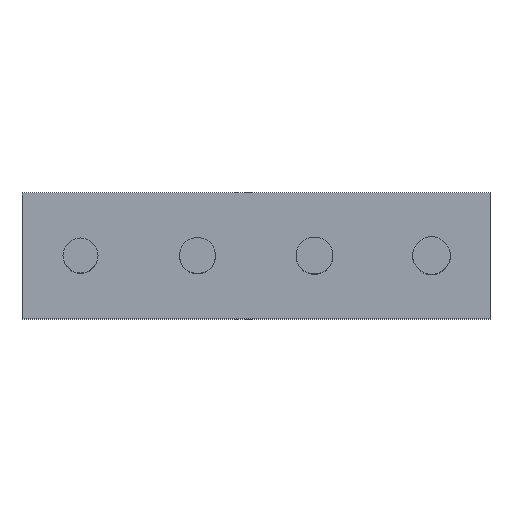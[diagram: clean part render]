
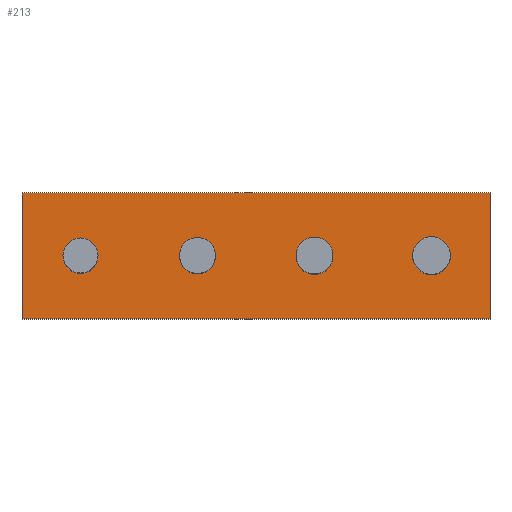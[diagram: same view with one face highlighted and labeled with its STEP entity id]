
A CAD part, top view. The second image highlights one B-rep face of the part: STEP entity #213.
In plain terms, the highlighted planar face has unit normal (0, 0, 1).
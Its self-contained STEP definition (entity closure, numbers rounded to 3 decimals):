
#24 = VERTEX_POINT('',#25);
#25 = CARTESIAN_POINT('',(-26.,-7.,0.));
#32 = PLANE('',#33);
#33 = AXIS2_PLACEMENT_3D('',#34,#35,#36);
#34 = CARTESIAN_POINT('',(-26.,-7.,-1.5));
#35 = DIRECTION('',(1.,0.,-0.));
#36 = DIRECTION('',(0.,0.,1.));
#44 = PLANE('',#45);
#45 = AXIS2_PLACEMENT_3D('',#46,#47,#48);
#46 = CARTESIAN_POINT('',(-26.,-7.,-1.5));
#47 = DIRECTION('',(-0.,1.,0.));
#48 = DIRECTION('',(0.,0.,1.));
#85 = VERTEX_POINT('',#86);
#86 = CARTESIAN_POINT('',(-26.,7.,0.));
#100 = PLANE('',#101);
#101 = AXIS2_PLACEMENT_3D('',#102,#103,#104);
#102 = CARTESIAN_POINT('',(-26.,7.,-1.5));
#103 = DIRECTION('',(-0.,1.,0.));
#104 = DIRECTION('',(0.,0.,1.));
#112 = EDGE_CURVE('',#24,#85,#113,.T.);
#113 = SURFACE_CURVE('',#114,(#118,#125),.PCURVE_S1.);
#114 = LINE('',#115,#116);
#115 = CARTESIAN_POINT('',(-26.,-7.,0.));
#116 = VECTOR('',#117,1.);
#117 = DIRECTION('',(-0.,1.,0.));
#118 = PCURVE('',#32,#119);
#119 = DEFINITIONAL_REPRESENTATION('',(#120),#124);
#120 = LINE('',#121,#122);
#121 = CARTESIAN_POINT('',(1.5,0.));
#122 = VECTOR('',#123,1.);
#123 = DIRECTION('',(0.,-1.));
#124 = ( GEOMETRIC_REPRESENTATION_CONTEXT(2) 
PARAMETRIC_REPRESENTATION_CONTEXT() REPRESENTATION_CONTEXT('2D SPACE',''
  ) );
#125 = PCURVE('',#126,#131);
#126 = PLANE('',#127);
#127 = AXIS2_PLACEMENT_3D('',#128,#129,#130);
#128 = CARTESIAN_POINT('',(-26.,-7.,0.));
#129 = DIRECTION('',(0.,0.,1.));
#130 = DIRECTION('',(1.,0.,-0.));
#131 = DEFINITIONAL_REPRESENTATION('',(#132),#136);
#132 = LINE('',#133,#134);
#133 = CARTESIAN_POINT('',(0.,0.));
#134 = VECTOR('',#135,1.);
#135 = DIRECTION('',(0.,1.));
#136 = ( GEOMETRIC_REPRESENTATION_CONTEXT(2) 
PARAMETRIC_REPRESENTATION_CONTEXT() REPRESENTATION_CONTEXT('2D SPACE',''
  ) );
#165 = EDGE_CURVE('',#24,#166,#168,.T.);
#166 = VERTEX_POINT('',#167);
#167 = CARTESIAN_POINT('',(26.,-7.,0.));
#168 = SURFACE_CURVE('',#169,(#173,#180),.PCURVE_S1.);
#169 = LINE('',#170,#171);
#170 = CARTESIAN_POINT('',(-26.,-7.,0.));
#171 = VECTOR('',#172,1.);
#172 = DIRECTION('',(1.,0.,-0.));
#173 = PCURVE('',#44,#174);
#174 = DEFINITIONAL_REPRESENTATION('',(#175),#179);
#175 = LINE('',#176,#177);
#176 = CARTESIAN_POINT('',(1.5,0.));
#177 = VECTOR('',#178,1.);
#178 = DIRECTION('',(0.,1.));
#179 = ( GEOMETRIC_REPRESENTATION_CONTEXT(2) 
PARAMETRIC_REPRESENTATION_CONTEXT() REPRESENTATION_CONTEXT('2D SPACE',''
  ) );
#180 = PCURVE('',#126,#181);
#181 = DEFINITIONAL_REPRESENTATION('',(#182),#186);
#182 = LINE('',#183,#184);
#183 = CARTESIAN_POINT('',(0.,0.));
#184 = VECTOR('',#185,1.);
#185 = DIRECTION('',(1.,0.));
#186 = ( GEOMETRIC_REPRESENTATION_CONTEXT(2) 
PARAMETRIC_REPRESENTATION_CONTEXT() REPRESENTATION_CONTEXT('2D SPACE',''
  ) );
#202 = PLANE('',#203);
#203 = AXIS2_PLACEMENT_3D('',#204,#205,#206);
#204 = CARTESIAN_POINT('',(26.,-7.,-1.5));
#205 = DIRECTION('',(1.,0.,-0.));
#206 = DIRECTION('',(0.,0.,1.));
#213 = ADVANCED_FACE('',(#214,#262,#293,#324,#355),#126,.T.);
#214 = FACE_BOUND('',#215,.T.);
#215 = EDGE_LOOP('',(#216,#217,#218,#241));
#216 = ORIENTED_EDGE('',*,*,#112,.F.);
#217 = ORIENTED_EDGE('',*,*,#165,.T.);
#218 = ORIENTED_EDGE('',*,*,#219,.T.);
#219 = EDGE_CURVE('',#166,#220,#222,.T.);
#220 = VERTEX_POINT('',#221);
#221 = CARTESIAN_POINT('',(26.,7.,0.));
#222 = SURFACE_CURVE('',#223,(#227,#234),.PCURVE_S1.);
#223 = LINE('',#224,#225);
#224 = CARTESIAN_POINT('',(26.,-7.,0.));
#225 = VECTOR('',#226,1.);
#226 = DIRECTION('',(-0.,1.,0.));
#227 = PCURVE('',#126,#228);
#228 = DEFINITIONAL_REPRESENTATION('',(#229),#233);
#229 = LINE('',#230,#231);
#230 = CARTESIAN_POINT('',(52.,0.));
#231 = VECTOR('',#232,1.);
#232 = DIRECTION('',(0.,1.));
#233 = ( GEOMETRIC_REPRESENTATION_CONTEXT(2) 
PARAMETRIC_REPRESENTATION_CONTEXT() REPRESENTATION_CONTEXT('2D SPACE',''
  ) );
#234 = PCURVE('',#202,#235);
#235 = DEFINITIONAL_REPRESENTATION('',(#236),#240);
#236 = LINE('',#237,#238);
#237 = CARTESIAN_POINT('',(1.5,0.));
#238 = VECTOR('',#239,1.);
#239 = DIRECTION('',(0.,-1.));
#240 = ( GEOMETRIC_REPRESENTATION_CONTEXT(2) 
PARAMETRIC_REPRESENTATION_CONTEXT() REPRESENTATION_CONTEXT('2D SPACE',''
  ) );
#241 = ORIENTED_EDGE('',*,*,#242,.F.);
#242 = EDGE_CURVE('',#85,#220,#243,.T.);
#243 = SURFACE_CURVE('',#244,(#248,#255),.PCURVE_S1.);
#244 = LINE('',#245,#246);
#245 = CARTESIAN_POINT('',(-26.,7.,0.));
#246 = VECTOR('',#247,1.);
#247 = DIRECTION('',(1.,0.,-0.));
#248 = PCURVE('',#126,#249);
#249 = DEFINITIONAL_REPRESENTATION('',(#250),#254);
#250 = LINE('',#251,#252);
#251 = CARTESIAN_POINT('',(0.,14.));
#252 = VECTOR('',#253,1.);
#253 = DIRECTION('',(1.,0.));
#254 = ( GEOMETRIC_REPRESENTATION_CONTEXT(2) 
PARAMETRIC_REPRESENTATION_CONTEXT() REPRESENTATION_CONTEXT('2D SPACE',''
  ) );
#255 = PCURVE('',#100,#256);
#256 = DEFINITIONAL_REPRESENTATION('',(#257),#261);
#257 = LINE('',#258,#259);
#258 = CARTESIAN_POINT('',(1.5,0.));
#259 = VECTOR('',#260,1.);
#260 = DIRECTION('',(0.,1.));
#261 = ( GEOMETRIC_REPRESENTATION_CONTEXT(2) 
PARAMETRIC_REPRESENTATION_CONTEXT() REPRESENTATION_CONTEXT('2D SPACE',''
  ) );
#262 = FACE_BOUND('',#263,.T.);
#263 = EDGE_LOOP('',(#264));
#264 = ORIENTED_EDGE('',*,*,#265,.F.);
#265 = EDGE_CURVE('',#266,#266,#268,.T.);
#266 = VERTEX_POINT('',#267);
#267 = CARTESIAN_POINT('',(-17.55,0.,0.));
#268 = SURFACE_CURVE('',#269,(#274,#281),.PCURVE_S1.);
#269 = CIRCLE('',#270,1.95);
#270 = AXIS2_PLACEMENT_3D('',#271,#272,#273);
#271 = CARTESIAN_POINT('',(-19.5,0.,0.));
#272 = DIRECTION('',(0.,0.,1.));
#273 = DIRECTION('',(1.,0.,-0.));
#274 = PCURVE('',#126,#275);
#275 = DEFINITIONAL_REPRESENTATION('',(#276),#280);
#276 = CIRCLE('',#277,1.95);
#277 = AXIS2_PLACEMENT_2D('',#278,#279);
#278 = CARTESIAN_POINT('',(6.5,7.));
#279 = DIRECTION('',(1.,0.));
#280 = ( GEOMETRIC_REPRESENTATION_CONTEXT(2) 
PARAMETRIC_REPRESENTATION_CONTEXT() REPRESENTATION_CONTEXT('2D SPACE',''
  ) );
#281 = PCURVE('',#282,#287);
#282 = CYLINDRICAL_SURFACE('',#283,1.95);
#283 = AXIS2_PLACEMENT_3D('',#284,#285,#286);
#284 = CARTESIAN_POINT('',(-19.5,0.,0.));
#285 = DIRECTION('',(0.,0.,1.));
#286 = DIRECTION('',(1.,0.,-0.));
#287 = DEFINITIONAL_REPRESENTATION('',(#288),#292);
#288 = LINE('',#289,#290);
#289 = CARTESIAN_POINT('',(0.,0.));
#290 = VECTOR('',#291,1.);
#291 = DIRECTION('',(1.,0.));
#292 = ( GEOMETRIC_REPRESENTATION_CONTEXT(2) 
PARAMETRIC_REPRESENTATION_CONTEXT() REPRESENTATION_CONTEXT('2D SPACE',''
  ) );
#293 = FACE_BOUND('',#294,.T.);
#294 = EDGE_LOOP('',(#295));
#295 = ORIENTED_EDGE('',*,*,#296,.F.);
#296 = EDGE_CURVE('',#297,#297,#299,.T.);
#297 = VERTEX_POINT('',#298);
#298 = CARTESIAN_POINT('',(-4.5,0.,0.));
#299 = SURFACE_CURVE('',#300,(#305,#312),.PCURVE_S1.);
#300 = CIRCLE('',#301,2.);
#301 = AXIS2_PLACEMENT_3D('',#302,#303,#304);
#302 = CARTESIAN_POINT('',(-6.5,0.,0.));
#303 = DIRECTION('',(0.,0.,1.));
#304 = DIRECTION('',(1.,0.,-0.));
#305 = PCURVE('',#126,#306);
#306 = DEFINITIONAL_REPRESENTATION('',(#307),#311);
#307 = CIRCLE('',#308,2.);
#308 = AXIS2_PLACEMENT_2D('',#309,#310);
#309 = CARTESIAN_POINT('',(19.5,7.));
#310 = DIRECTION('',(1.,0.));
#311 = ( GEOMETRIC_REPRESENTATION_CONTEXT(2) 
PARAMETRIC_REPRESENTATION_CONTEXT() REPRESENTATION_CONTEXT('2D SPACE',''
  ) );
#312 = PCURVE('',#313,#318);
#313 = CYLINDRICAL_SURFACE('',#314,2.);
#314 = AXIS2_PLACEMENT_3D('',#315,#316,#317);
#315 = CARTESIAN_POINT('',(-6.5,0.,0.));
#316 = DIRECTION('',(0.,0.,1.));
#317 = DIRECTION('',(1.,0.,-0.));
#318 = DEFINITIONAL_REPRESENTATION('',(#319),#323);
#319 = LINE('',#320,#321);
#320 = CARTESIAN_POINT('',(0.,0.));
#321 = VECTOR('',#322,1.);
#322 = DIRECTION('',(1.,0.));
#323 = ( GEOMETRIC_REPRESENTATION_CONTEXT(2) 
PARAMETRIC_REPRESENTATION_CONTEXT() REPRESENTATION_CONTEXT('2D SPACE',''
  ) );
#324 = FACE_BOUND('',#325,.T.);
#325 = EDGE_LOOP('',(#326));
#326 = ORIENTED_EDGE('',*,*,#327,.F.);
#327 = EDGE_CURVE('',#328,#328,#330,.T.);
#328 = VERTEX_POINT('',#329);
#329 = CARTESIAN_POINT('',(8.55,0.,0.));
#330 = SURFACE_CURVE('',#331,(#336,#343),.PCURVE_S1.);
#331 = CIRCLE('',#332,2.05);
#332 = AXIS2_PLACEMENT_3D('',#333,#334,#335);
#333 = CARTESIAN_POINT('',(6.5,0.,0.));
#334 = DIRECTION('',(0.,0.,1.));
#335 = DIRECTION('',(1.,0.,-0.));
#336 = PCURVE('',#126,#337);
#337 = DEFINITIONAL_REPRESENTATION('',(#338),#342);
#338 = CIRCLE('',#339,2.05);
#339 = AXIS2_PLACEMENT_2D('',#340,#341);
#340 = CARTESIAN_POINT('',(32.5,7.));
#341 = DIRECTION('',(1.,0.));
#342 = ( GEOMETRIC_REPRESENTATION_CONTEXT(2) 
PARAMETRIC_REPRESENTATION_CONTEXT() REPRESENTATION_CONTEXT('2D SPACE',''
  ) );
#343 = PCURVE('',#344,#349);
#344 = CYLINDRICAL_SURFACE('',#345,2.05);
#345 = AXIS2_PLACEMENT_3D('',#346,#347,#348);
#346 = CARTESIAN_POINT('',(6.5,0.,0.));
#347 = DIRECTION('',(0.,0.,1.));
#348 = DIRECTION('',(1.,0.,-0.));
#349 = DEFINITIONAL_REPRESENTATION('',(#350),#354);
#350 = LINE('',#351,#352);
#351 = CARTESIAN_POINT('',(0.,0.));
#352 = VECTOR('',#353,1.);
#353 = DIRECTION('',(1.,0.));
#354 = ( GEOMETRIC_REPRESENTATION_CONTEXT(2) 
PARAMETRIC_REPRESENTATION_CONTEXT() REPRESENTATION_CONTEXT('2D SPACE',''
  ) );
#355 = FACE_BOUND('',#356,.T.);
#356 = EDGE_LOOP('',(#357));
#357 = ORIENTED_EDGE('',*,*,#358,.F.);
#358 = EDGE_CURVE('',#359,#359,#361,.T.);
#359 = VERTEX_POINT('',#360);
#360 = CARTESIAN_POINT('',(21.6,0.,0.));
#361 = SURFACE_CURVE('',#362,(#367,#374),.PCURVE_S1.);
#362 = CIRCLE('',#363,2.1);
#363 = AXIS2_PLACEMENT_3D('',#364,#365,#366);
#364 = CARTESIAN_POINT('',(19.5,0.,0.));
#365 = DIRECTION('',(0.,0.,1.));
#366 = DIRECTION('',(1.,0.,-0.));
#367 = PCURVE('',#126,#368);
#368 = DEFINITIONAL_REPRESENTATION('',(#369),#373);
#369 = CIRCLE('',#370,2.1);
#370 = AXIS2_PLACEMENT_2D('',#371,#372);
#371 = CARTESIAN_POINT('',(45.5,7.));
#372 = DIRECTION('',(1.,0.));
#373 = ( GEOMETRIC_REPRESENTATION_CONTEXT(2) 
PARAMETRIC_REPRESENTATION_CONTEXT() REPRESENTATION_CONTEXT('2D SPACE',''
  ) );
#374 = PCURVE('',#375,#380);
#375 = CYLINDRICAL_SURFACE('',#376,2.1);
#376 = AXIS2_PLACEMENT_3D('',#377,#378,#379);
#377 = CARTESIAN_POINT('',(19.5,0.,0.));
#378 = DIRECTION('',(0.,0.,1.));
#379 = DIRECTION('',(1.,0.,-0.));
#380 = DEFINITIONAL_REPRESENTATION('',(#381),#385);
#381 = LINE('',#382,#383);
#382 = CARTESIAN_POINT('',(0.,0.));
#383 = VECTOR('',#384,1.);
#384 = DIRECTION('',(1.,0.));
#385 = ( GEOMETRIC_REPRESENTATION_CONTEXT(2) 
PARAMETRIC_REPRESENTATION_CONTEXT() REPRESENTATION_CONTEXT('2D SPACE',''
  ) );
